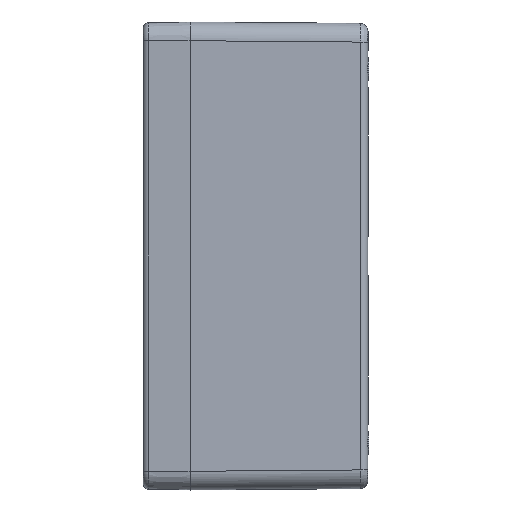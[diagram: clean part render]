
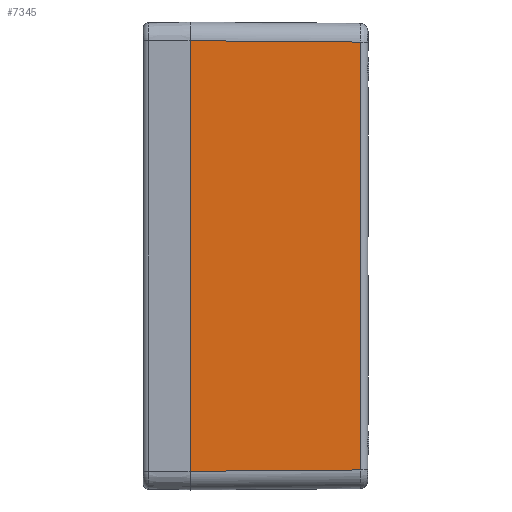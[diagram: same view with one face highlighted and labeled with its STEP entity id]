
A CAD part, left-side view. The second image highlights one B-rep face of the part: STEP entity #7345.
In plain terms, the highlighted planar face has unit normal (-1, -0.008, 0).
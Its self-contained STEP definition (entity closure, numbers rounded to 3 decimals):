
#553=CARTESIAN_POINT('',(-127.5,0.,-115.));
#605=CARTESIAN_POINT('',(-127.5,0.,115.));
#618=DIRECTION('',(0.,0.,-1.));
#619=VECTOR('',#618,230.001);
#620=CARTESIAN_POINT('',(-127.5,0.,115.));
#621=LINE('',#620,#619);
#2946=DIRECTION('',(0.,0.,1.));
#2947=VECTOR('',#2946,228.563);
#2948=CARTESIAN_POINT('',(-126.781,-91.032,
-114.282));
#2949=LINE('',#2948,#2947);
#3005=DIRECTION('',(-0.008,1.,-0.008));
#3006=VECTOR('',#3005,91.037);
#3007=CARTESIAN_POINT('',(-126.781,-91.032,
-114.282));
#3008=LINE('',#3007,#3006);
#3012=DIRECTION('',(-0.008,1.,0.008));
#3013=VECTOR('',#3012,91.037);
#3014=CARTESIAN_POINT('',(-126.781,-91.032,
114.282));
#3015=LINE('',#3014,#3013);
#3019=CARTESIAN_POINT('',(-126.781,-91.032,
-114.282));
#3158=CARTESIAN_POINT('',(-126.781,-91.032,
114.282));
#3957=VERTEX_POINT('',#553);
#3962=VERTEX_POINT('',#605);
#3966=VERTEX_POINT('',#3019);
#3983=VERTEX_POINT('',#3158);
#7332=CARTESIAN_POINT('',(-127.125,-47.5,0.));
#7333=DIRECTION('',(1.,0.008,0.));
#7334=DIRECTION('',(-0.008,1.,0.));
#7335=AXIS2_PLACEMENT_3D('',#7332,#7333,#7334);
#7336=PLANE('',#7335);
#7337=ORIENTED_EDGE('',*,*,#7292,.F.);
#7339=ORIENTED_EDGE('',*,*,#7338,.T.);
#7340=ORIENTED_EDGE('',*,*,#4465,.F.);
#7342=ORIENTED_EDGE('',*,*,#7341,.F.);
#7343=EDGE_LOOP('',(#7337,#7339,#7340,#7342));
#7344=FACE_OUTER_BOUND('',#7343,.F.);
#4465=EDGE_CURVE('',#3962,#3957,#621,.T.);
#7292=EDGE_CURVE('',#3966,#3983,#2949,.T.);
#7338=EDGE_CURVE('',#3966,#3957,#3008,.T.);
#7341=EDGE_CURVE('',#3983,#3962,#3015,.T.);
#7345=ADVANCED_FACE('',(#7344),#7336,.F.);
